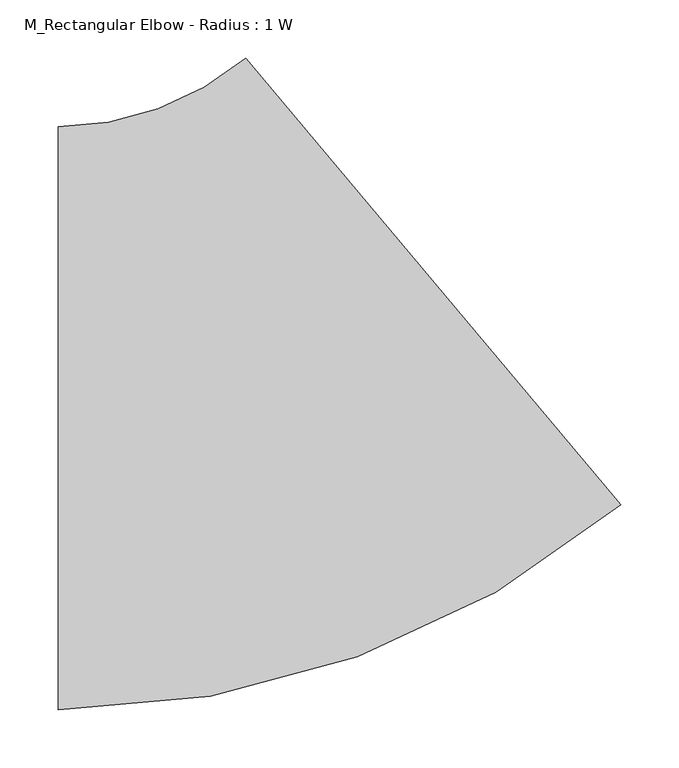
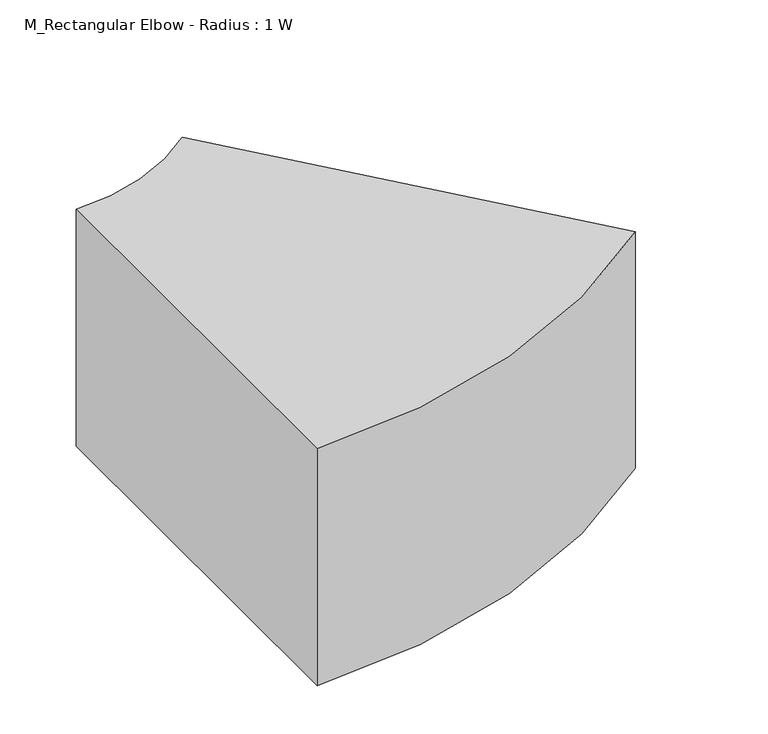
"""IFC4 building model written with IfcOpenShell, lengths in millimetres: duct fitting geometry, M_Rectangular Elbow - Radius : 1 W."""

from ifc_helpers import new_model, si_unit, point, frame, frame_2d, origin, place, context, project, spatial, polyline, circle_curve, trimmed, segment, composite_curve, outline, extrude, source, transform, mapped, element, save


def m_rectangular_elbow_radius_1_w_e33107ab(model_context):
    return source(origin(), model_context, "Body", "SweptSolid", [
        extrude(outline(composite_curve([segment(trimmed(circle_curve(frame_2d((-181.9851171, 500.0)), 750.0), [point((300.1055901, -74.5333323))], [point((-181.9851171, -250.0))], False, "CARTESIAN"), True, "CONTINUOUS"), segment(polyline([(-181.9851171, -250.0), (-181.9851171, 250.0)]), True, "CONTINUOUS"), segment(trimmed(circle_curve(frame_2d((-181.9851171, 500.0)), 250.0), [point((-181.9851171, 250.0))], [point((-21.2882147, 308.4888892))], True, "CARTESIAN"), True, "CONTINUOUS"), segment(polyline([(-21.2882147, 308.4888892), (300.1055901, -74.5333323)]), True, "CONTINUOUS")], self_intersect=False)), frame((0.0, 0.0, -150.0), z_axis=(0.0, 0.0, 1.0), x_axis=(1.0, 0.0, 0.0)), (0.0, 0.0, 1.0), 300.0),
    ])


if __name__ == "__main__":
    model = new_model("IFC4")
    model_context = context("Model", 3, world=origin())
    ifc_project = project(units=[si_unit("LENGTHUNIT", "METRE", prefix="MILLI")], contexts=[model_context])
    site = spatial("IfcSite", under=ifc_project)
    building = spatial("IfcBuilding", under=site)
    placement = place(None, origin())
    m_rectangular_elbow_radius_1_w_shape = m_rectangular_elbow_radius_1_w_e33107ab(model_context)
    element("IfcDuctFitting", 1, ObjectType="M_Rectangular Elbow - Radius : 1 W", at=placement, inside=building, context=model_context, shape_type="MappedRepresentation", body=[
        mapped(m_rectangular_elbow_radius_1_w_shape, transform((0.0, 0.0, 0.0), x_axis=(1.0, 0.0, 0.0), y_axis=(0.0, 1.0, 0.0), z_axis=(0.0, 0.0, 1.0))),
    ])
    save(model, "model.ifc")
